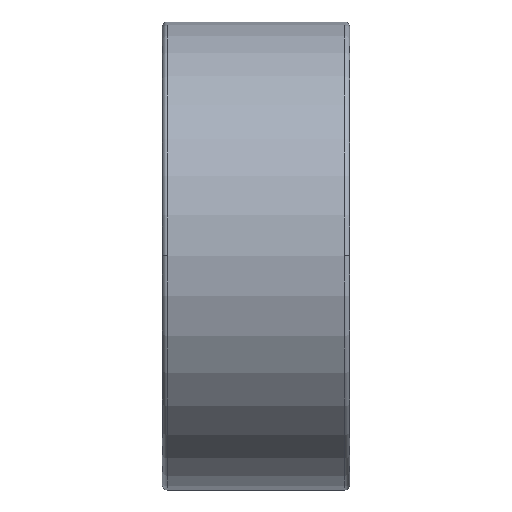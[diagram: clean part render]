
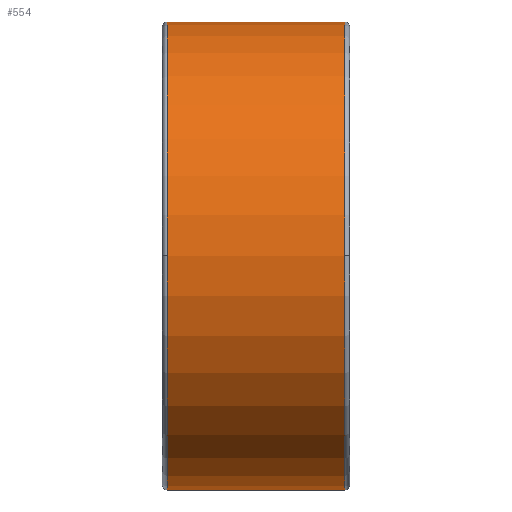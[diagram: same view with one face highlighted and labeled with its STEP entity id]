
A CAD part, top view. The second image highlights one B-rep face of the part: STEP entity #554.
In plain terms, the highlighted cylindrical face has radius 5 mm (diameter 10 mm), a partial arc.
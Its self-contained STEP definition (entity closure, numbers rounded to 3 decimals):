
#403 = TOROIDAL_SURFACE('',#404,4.9,0.1);
#404 = AXIS2_PLACEMENT_3D('',#405,#406,#407);
#405 = CARTESIAN_POINT('',(3.9,0.,0.));
#406 = DIRECTION('',(1.,0.,0.));
#407 = DIRECTION('',(0.,0.,-1.));
#415 = TOROIDAL_SURFACE('',#416,4.9,0.1);
#416 = AXIS2_PLACEMENT_3D('',#417,#418,#419);
#417 = CARTESIAN_POINT('',(3.9,0.,0.));
#418 = DIRECTION('',(1.,0.,0.));
#419 = DIRECTION('',(0.,0.,-1.));
#428 = VERTEX_POINT('',#429);
#429 = CARTESIAN_POINT('',(3.9,5.,0.));
#444 = CYLINDRICAL_SURFACE('',#445,5.);
#445 = AXIS2_PLACEMENT_3D('',#446,#447,#448);
#446 = CARTESIAN_POINT('',(2.,0.,0.));
#447 = DIRECTION('',(1.,0.,0.));
#448 = DIRECTION('',(-0.,1.,0.));
#456 = EDGE_CURVE('',#428,#457,#459,.T.);
#457 = VERTEX_POINT('',#458);
#458 = CARTESIAN_POINT('',(3.9,0.,5.));
#459 = SURFACE_CURVE('',#460,(#465,#472),.PCURVE_S1.);
#460 = CIRCLE('',#461,5.);
#461 = AXIS2_PLACEMENT_3D('',#462,#463,#464);
#462 = CARTESIAN_POINT('',(3.9,0.,0.));
#463 = DIRECTION('',(1.,0.,0.));
#464 = DIRECTION('',(-0.,1.,0.));
#465 = PCURVE('',#403,#466);
#466 = DEFINITIONAL_REPRESENTATION('',(#467),#471);
#467 = LINE('',#468,#469);
#468 = CARTESIAN_POINT('',(1.571,0.));
#469 = VECTOR('',#470,1.);
#470 = DIRECTION('',(1.,0.));
#471 = ( GEOMETRIC_REPRESENTATION_CONTEXT(2) 
PARAMETRIC_REPRESENTATION_CONTEXT() REPRESENTATION_CONTEXT('2D SPACE',''
  ) );
#472 = PCURVE('',#473,#478);
#473 = CYLINDRICAL_SURFACE('',#474,5.);
#474 = AXIS2_PLACEMENT_3D('',#475,#476,#477);
#475 = CARTESIAN_POINT('',(2.,0.,0.));
#476 = DIRECTION('',(1.,0.,0.));
#477 = DIRECTION('',(-0.,1.,0.));
#478 = DEFINITIONAL_REPRESENTATION('',(#479),#483);
#479 = LINE('',#480,#481);
#480 = CARTESIAN_POINT('',(0.,1.9));
#481 = VECTOR('',#482,1.);
#482 = DIRECTION('',(1.,0.));
#483 = ( GEOMETRIC_REPRESENTATION_CONTEXT(2) 
PARAMETRIC_REPRESENTATION_CONTEXT() REPRESENTATION_CONTEXT('2D SPACE',''
  ) );
#554 = ADVANCED_FACE('',(#555),#473,.T.);
#555 = FACE_BOUND('',#556,.T.);
#556 = EDGE_LOOP('',(#557,#580,#609,#638,#661,#683));
#557 = ORIENTED_EDGE('',*,*,#558,.F.);
#558 = EDGE_CURVE('',#559,#428,#561,.T.);
#559 = VERTEX_POINT('',#560);
#560 = CARTESIAN_POINT('',(0.1,5.,0.));
#561 = SURFACE_CURVE('',#562,(#566,#573),.PCURVE_S1.);
#562 = LINE('',#563,#564);
#563 = CARTESIAN_POINT('',(2.,5.,0.));
#564 = VECTOR('',#565,1.);
#565 = DIRECTION('',(1.,0.,0.));
#566 = PCURVE('',#473,#567);
#567 = DEFINITIONAL_REPRESENTATION('',(#568),#572);
#568 = LINE('',#569,#570);
#569 = CARTESIAN_POINT('',(0.,0.));
#570 = VECTOR('',#571,1.);
#571 = DIRECTION('',(0.,1.));
#572 = ( GEOMETRIC_REPRESENTATION_CONTEXT(2) 
PARAMETRIC_REPRESENTATION_CONTEXT() REPRESENTATION_CONTEXT('2D SPACE',''
  ) );
#573 = PCURVE('',#444,#574);
#574 = DEFINITIONAL_REPRESENTATION('',(#575),#579);
#575 = LINE('',#576,#577);
#576 = CARTESIAN_POINT('',(6.283,0.));
#577 = VECTOR('',#578,1.);
#578 = DIRECTION('',(0.,1.));
#579 = ( GEOMETRIC_REPRESENTATION_CONTEXT(2) 
PARAMETRIC_REPRESENTATION_CONTEXT() REPRESENTATION_CONTEXT('2D SPACE',''
  ) );
#580 = ORIENTED_EDGE('',*,*,#581,.T.);
#581 = EDGE_CURVE('',#559,#582,#584,.T.);
#582 = VERTEX_POINT('',#583);
#583 = CARTESIAN_POINT('',(0.1,0.,5.));
#584 = SURFACE_CURVE('',#585,(#590,#597),.PCURVE_S1.);
#585 = CIRCLE('',#586,5.);
#586 = AXIS2_PLACEMENT_3D('',#587,#588,#589);
#587 = CARTESIAN_POINT('',(0.1,0.,0.));
#588 = DIRECTION('',(1.,0.,0.));
#589 = DIRECTION('',(-0.,1.,0.));
#590 = PCURVE('',#473,#591);
#591 = DEFINITIONAL_REPRESENTATION('',(#592),#596);
#592 = LINE('',#593,#594);
#593 = CARTESIAN_POINT('',(0.,-1.9));
#594 = VECTOR('',#595,1.);
#595 = DIRECTION('',(1.,0.));
#596 = ( GEOMETRIC_REPRESENTATION_CONTEXT(2) 
PARAMETRIC_REPRESENTATION_CONTEXT() REPRESENTATION_CONTEXT('2D SPACE',''
  ) );
#597 = PCURVE('',#598,#603);
#598 = TOROIDAL_SURFACE('',#599,4.9,0.1);
#599 = AXIS2_PLACEMENT_3D('',#600,#601,#602);
#600 = CARTESIAN_POINT('',(0.1,0.,0.));
#601 = DIRECTION('',(1.,0.,0.));
#602 = DIRECTION('',(0.,0.,-1.));
#603 = DEFINITIONAL_REPRESENTATION('',(#604),#608);
#604 = LINE('',#605,#606);
#605 = CARTESIAN_POINT('',(1.571,6.283));
#606 = VECTOR('',#607,1.);
#607 = DIRECTION('',(1.,0.));
#608 = ( GEOMETRIC_REPRESENTATION_CONTEXT(2) 
PARAMETRIC_REPRESENTATION_CONTEXT() REPRESENTATION_CONTEXT('2D SPACE',''
  ) );
#609 = ORIENTED_EDGE('',*,*,#610,.T.);
#610 = EDGE_CURVE('',#582,#611,#613,.T.);
#611 = VERTEX_POINT('',#612);
#612 = CARTESIAN_POINT('',(0.1,-5.,0.));
#613 = SURFACE_CURVE('',#614,(#619,#626),.PCURVE_S1.);
#614 = CIRCLE('',#615,5.);
#615 = AXIS2_PLACEMENT_3D('',#616,#617,#618);
#616 = CARTESIAN_POINT('',(0.1,0.,0.));
#617 = DIRECTION('',(1.,0.,0.));
#618 = DIRECTION('',(-0.,1.,0.));
#619 = PCURVE('',#473,#620);
#620 = DEFINITIONAL_REPRESENTATION('',(#621),#625);
#621 = LINE('',#622,#623);
#622 = CARTESIAN_POINT('',(0.,-1.9));
#623 = VECTOR('',#624,1.);
#624 = DIRECTION('',(1.,0.));
#625 = ( GEOMETRIC_REPRESENTATION_CONTEXT(2) 
PARAMETRIC_REPRESENTATION_CONTEXT() REPRESENTATION_CONTEXT('2D SPACE',''
  ) );
#626 = PCURVE('',#627,#632);
#627 = TOROIDAL_SURFACE('',#628,4.9,0.1);
#628 = AXIS2_PLACEMENT_3D('',#629,#630,#631);
#629 = CARTESIAN_POINT('',(0.1,0.,0.));
#630 = DIRECTION('',(1.,0.,0.));
#631 = DIRECTION('',(0.,0.,-1.));
#632 = DEFINITIONAL_REPRESENTATION('',(#633),#637);
#633 = LINE('',#634,#635);
#634 = CARTESIAN_POINT('',(1.571,6.283));
#635 = VECTOR('',#636,1.);
#636 = DIRECTION('',(1.,0.));
#637 = ( GEOMETRIC_REPRESENTATION_CONTEXT(2) 
PARAMETRIC_REPRESENTATION_CONTEXT() REPRESENTATION_CONTEXT('2D SPACE',''
  ) );
#638 = ORIENTED_EDGE('',*,*,#639,.F.);
#639 = EDGE_CURVE('',#640,#611,#642,.T.);
#640 = VERTEX_POINT('',#641);
#641 = CARTESIAN_POINT('',(3.9,-5.,0.));
#642 = SURFACE_CURVE('',#643,(#647,#654),.PCURVE_S1.);
#643 = LINE('',#644,#645);
#644 = CARTESIAN_POINT('',(2.,-5.,0.));
#645 = VECTOR('',#646,1.);
#646 = DIRECTION('',(-1.,-0.,-0.));
#647 = PCURVE('',#473,#648);
#648 = DEFINITIONAL_REPRESENTATION('',(#649),#653);
#649 = LINE('',#650,#651);
#650 = CARTESIAN_POINT('',(3.142,0.));
#651 = VECTOR('',#652,1.);
#652 = DIRECTION('',(0.,-1.));
#653 = ( GEOMETRIC_REPRESENTATION_CONTEXT(2) 
PARAMETRIC_REPRESENTATION_CONTEXT() REPRESENTATION_CONTEXT('2D SPACE',''
  ) );
#654 = PCURVE('',#444,#655);
#655 = DEFINITIONAL_REPRESENTATION('',(#656),#660);
#656 = LINE('',#657,#658);
#657 = CARTESIAN_POINT('',(3.142,0.));
#658 = VECTOR('',#659,1.);
#659 = DIRECTION('',(0.,-1.));
#660 = ( GEOMETRIC_REPRESENTATION_CONTEXT(2) 
PARAMETRIC_REPRESENTATION_CONTEXT() REPRESENTATION_CONTEXT('2D SPACE',''
  ) );
#661 = ORIENTED_EDGE('',*,*,#662,.F.);
#662 = EDGE_CURVE('',#457,#640,#663,.T.);
#663 = SURFACE_CURVE('',#664,(#669,#676),.PCURVE_S1.);
#664 = CIRCLE('',#665,5.);
#665 = AXIS2_PLACEMENT_3D('',#666,#667,#668);
#666 = CARTESIAN_POINT('',(3.9,0.,0.));
#667 = DIRECTION('',(1.,0.,0.));
#668 = DIRECTION('',(-0.,1.,0.));
#669 = PCURVE('',#473,#670);
#670 = DEFINITIONAL_REPRESENTATION('',(#671),#675);
#671 = LINE('',#672,#673);
#672 = CARTESIAN_POINT('',(0.,1.9));
#673 = VECTOR('',#674,1.);
#674 = DIRECTION('',(1.,0.));
#675 = ( GEOMETRIC_REPRESENTATION_CONTEXT(2) 
PARAMETRIC_REPRESENTATION_CONTEXT() REPRESENTATION_CONTEXT('2D SPACE',''
  ) );
#676 = PCURVE('',#415,#677);
#677 = DEFINITIONAL_REPRESENTATION('',(#678),#682);
#678 = LINE('',#679,#680);
#679 = CARTESIAN_POINT('',(1.571,0.));
#680 = VECTOR('',#681,1.);
#681 = DIRECTION('',(1.,0.));
#682 = ( GEOMETRIC_REPRESENTATION_CONTEXT(2) 
PARAMETRIC_REPRESENTATION_CONTEXT() REPRESENTATION_CONTEXT('2D SPACE',''
  ) );
#683 = ORIENTED_EDGE('',*,*,#456,.F.);
